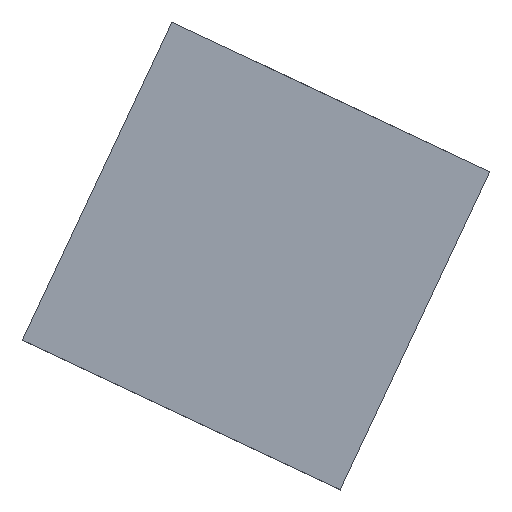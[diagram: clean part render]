
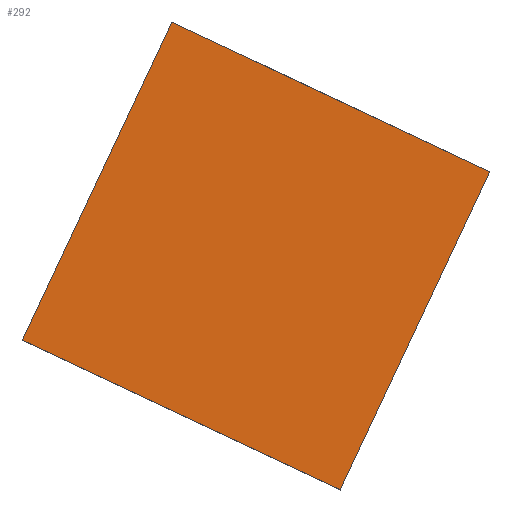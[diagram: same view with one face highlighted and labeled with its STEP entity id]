
A CAD part, top view. The second image highlights one B-rep face of the part: STEP entity #292.
In plain terms, the highlighted planar face has unit normal (0, 0, 1).
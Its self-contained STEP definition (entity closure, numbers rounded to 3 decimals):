
#95 = VERTEX_POINT('',#96);
#96 = CARTESIAN_POINT('',(-9.341,4.34,5.1));
#102 = EDGE_CURVE('',#95,#103,#105,.T.);
#103 = VERTEX_POINT('',#104);
#104 = CARTESIAN_POINT('',(-10.97,5.107,5.1));
#105 = LINE('',#106,#107);
#106 = CARTESIAN_POINT('',(-9.341,4.34,5.1));
#107 = VECTOR('',#108,1.);
#108 = DIRECTION('',(-0.905,0.426,0.));
#125 = VERTEX_POINT('',#126);
#126 = CARTESIAN_POINT('',(-10.203,6.735,5.1));
#134 = EDGE_CURVE('',#125,#103,#135,.T.);
#135 = LINE('',#136,#137);
#136 = CARTESIAN_POINT('',(-10.203,6.735,5.1));
#137 = VECTOR('',#138,1.);
#138 = DIRECTION('',(-0.426,-0.905,0.));
#273 = VERTEX_POINT('',#274);
#274 = CARTESIAN_POINT('',(-8.575,5.969,5.1));
#282 = EDGE_CURVE('',#273,#95,#283,.T.);
#283 = LINE('',#284,#285);
#284 = CARTESIAN_POINT('',(-8.575,5.969,5.1));
#285 = VECTOR('',#286,1.);
#286 = DIRECTION('',(-0.426,-0.905,0.));
#292 = ADVANCED_FACE('',(#293),#304,.T.);
#293 = FACE_BOUND('',#294,.T.);
#294 = EDGE_LOOP('',(#295,#296,#302,#303));
#295 = ORIENTED_EDGE('',*,*,#282,.F.);
#296 = ORIENTED_EDGE('',*,*,#297,.T.);
#297 = EDGE_CURVE('',#273,#125,#298,.T.);
#298 = LINE('',#299,#300);
#299 = CARTESIAN_POINT('',(-8.575,5.969,5.1));
#300 = VECTOR('',#301,1.);
#301 = DIRECTION('',(-0.905,0.426,0.));
#302 = ORIENTED_EDGE('',*,*,#134,.T.);
#303 = ORIENTED_EDGE('',*,*,#102,.F.);
#304 = PLANE('',#305);
#305 = AXIS2_PLACEMENT_3D('',#306,#307,#308);
#306 = CARTESIAN_POINT('',(-8.575,5.969,5.1));
#307 = DIRECTION('',(0.,0.,1.));
#308 = DIRECTION('',(-0.905,0.426,0.));
